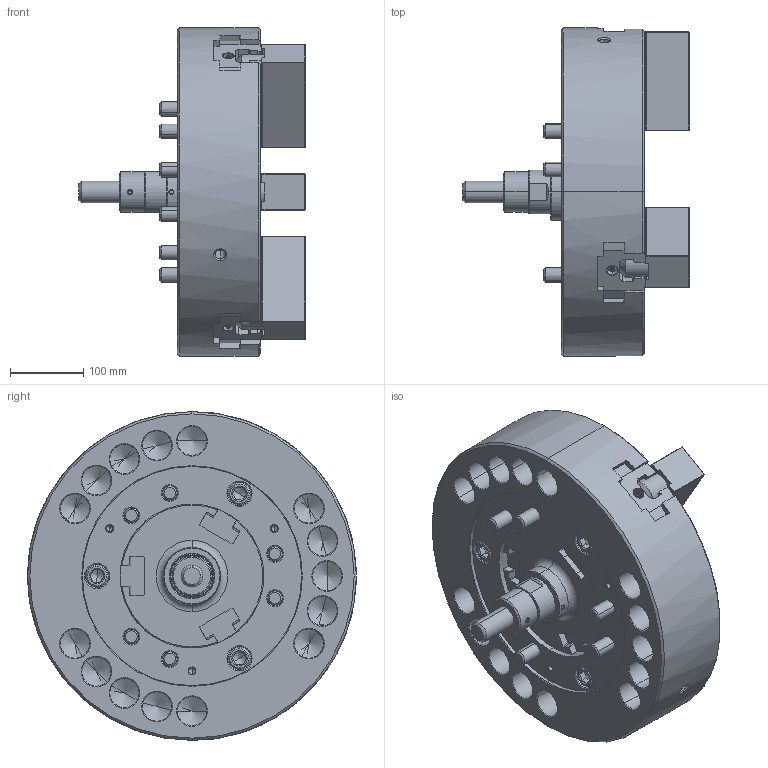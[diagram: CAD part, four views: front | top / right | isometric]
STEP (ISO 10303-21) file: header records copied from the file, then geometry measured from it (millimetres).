
FILE_DESCRIPTION (( 'STEP AP214' ), '1' );
FILE_NAME ('DT1_N-18_OUTSIDE_VIEW_HOL.STEP', '2026-03-13T00:54:03', ( '' ), ( '' ), 'SwSTEP 2.0', 'SolidWorks 2022', '' );
FILE_SCHEMA (( 'AUTOMOTIVE_DESIGN' ));
Length unit declared in the file: millimetre
Products named in the file (11): DT1_N-18_M20x55^DT1_N-18; DT1_N-18_OUTSIDE_VIEW_HOL; DT1_N-18_TNUT^DT1_N-18; Copy of 61P321208^DT1_N-18; DT1_N-18_DRAWSCREW^DT1_N-18; DT1_N-18_M6x12^DT1_N-18; DT1_N-18_M20x115^DT1_N-18; DT1_N-18_SOFTJAW^DT1_N-18; DT1_N-18_DN^DT1_N-18; DT1_N-18_COVER^DT1_N-18; DT1_N-18_BASE^DT1_N-18
Assembly tree (29 placements, depth 2):
  DT1_N-18_OUTSIDE_VIEW_HOL
    DT1_N-18_SOFTJAW^DT1_N-18  x3
    DT1_N-18_TNUT^DT1_N-18  x6
    DT1_N-18_COVER^DT1_N-18
    DT1_N-18_DRAWSCREW^DT1_N-18
    Copy of 61P321208^DT1_N-18
    DT1_N-18_DN^DT1_N-18
    DT1_N-18_BASE^DT1_N-18
    DT1_N-18_M6x12^DT1_N-18  x3
    DT1_N-18_M20x115^DT1_N-18  x6
    DT1_N-18_M20x55^DT1_N-18  x6
Bounding box: 309.44 x 450 x 450 mm (x, y, z)
Volume: 2112758.1 mm3; surface area: 1215251.6 mm2
Topology: 34 solids, 35 shells, 7005 faces, 19881 edges, 13053 vertices
Faces by surface type: plane 4975, cylinder 874, bspline 587, cone 501, torus 62, sphere 6
Entity records: 200658 total; most frequent: CARTESIAN_POINT 64208, ORIENTED_EDGE 31016, DIRECTION 23832, EDGE_CURVE 15508, LINE 11780, VECTOR 11780, VERTEX_POINT 10219, AXIS2_PLACEMENT_3D 6026
